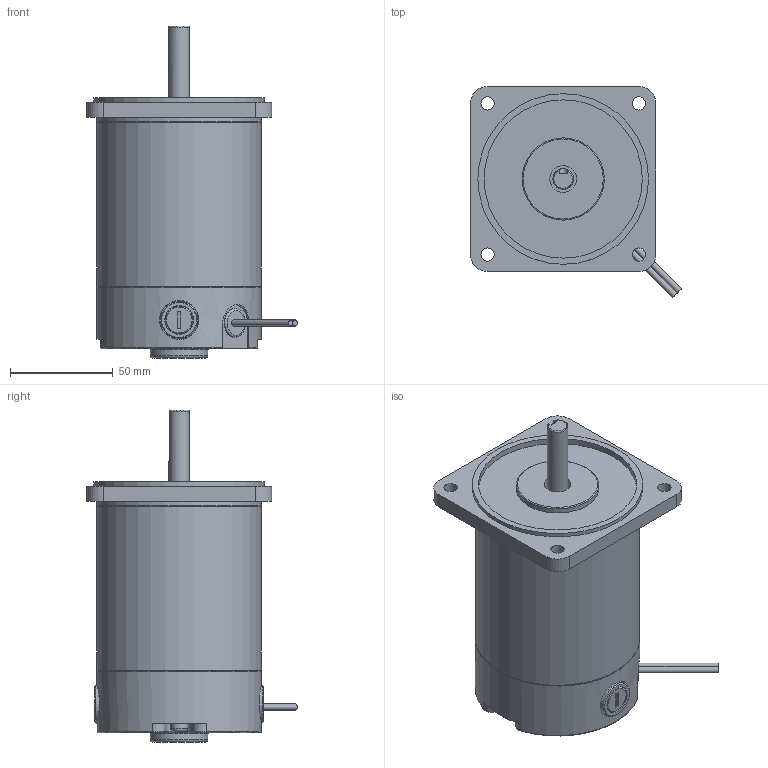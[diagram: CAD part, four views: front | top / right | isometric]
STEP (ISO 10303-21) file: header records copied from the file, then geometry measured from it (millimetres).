
FILE_DESCRIPTION((''),'2;1');
FILE_NAME('C:\Documents and Settings\ycw1227\바탕 화면\S9D40-ㅁK.stp','2013-06-05T11:09:09',('ycw1227'),(''),'Autodesk Inventor 2011','Autodesk Inventor 2011','');
FILE_SCHEMA(('AUTOMOTIVE_DESIGN { 1 0 10303 214 1 1 1 1 }'));
Length unit declared in the file: millimetre
Products named in the file (1): 부품7
Bounding box: 102.45 x 102.45 x 161.5 mm (x, y, z)
Volume: 627786.8 mm3; surface area: 57166.8 mm2
Topology: 1 solids, 3 shells, 167 faces, 392 edges, 255 vertices
Faces by surface type: plane 90, cylinder 47, torus 16, cone 14
Full cylindrical faces by diameter (mm): 3 x2, 5 x2, 6.5 x4, 8.5 x2, 9 x1, 10 x1, 13 x1, 13.5 x2, 14 x3, 18 x2, 19 x2, 28 x1, 40 x1, 77 x1, 80 x3, 83 x1
Entity records: 4875 total; most frequent: CARTESIAN_POINT 1005, DIRECTION 784, ORIENTED_EDGE 698, EDGE_CURVE 349, AXIS2_PLACEMENT_3D 310, VERTEX_POINT 251, EDGE_LOOP 239, FACE_OUTER_BOUND 167
